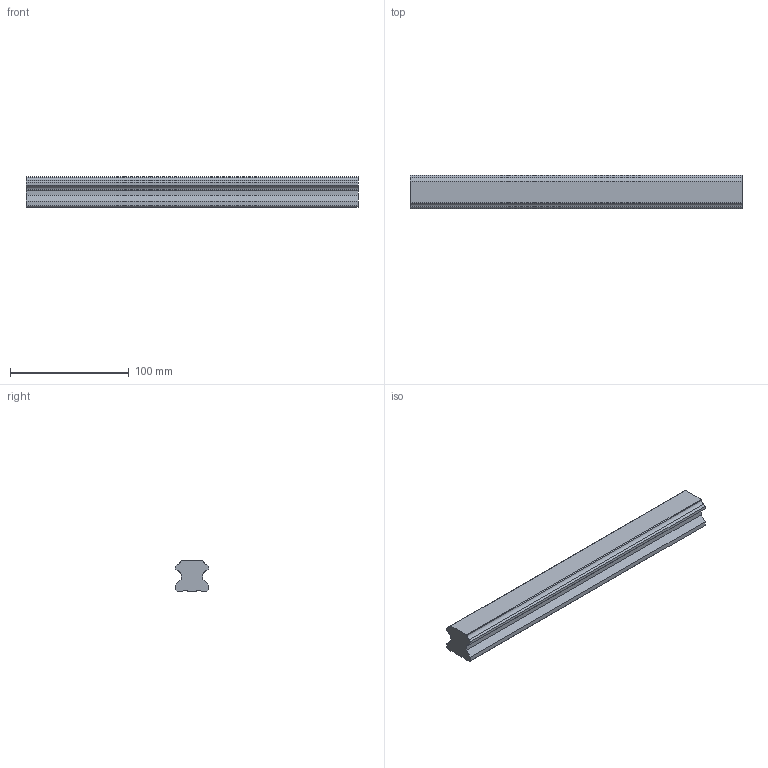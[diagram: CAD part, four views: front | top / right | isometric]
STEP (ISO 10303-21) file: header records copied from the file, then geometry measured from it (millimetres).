
FILE_DESCRIPTION(('starvars output'),'2;1');
FILE_NAME('cv20190626230523000044921.stp','23:05:23 2019/06/26',( 'Thomas Industrial Network Germany GmbH'),( 'Thomas Industrial Network Germany GmbH'),'unknown preprocess','ACIS' ,'unknown authorization');
FILE_SCHEMA(('CONFIG_CONTROL_DESIGN {UNKNOWN IMPLEMENTATION LEVEL}'));
Length unit declared in the file: millimetre
Products named in the file (1): PRODUCT_ID_1
Bounding box: 280 x 28 x 26 mm (x, y, z)
Volume: 167364.3 mm3; surface area: 33738.7 mm2
Topology: 1 solids, 1 shells, 98 faces, 248 edges, 148 vertices
Faces by surface type: plane 46, cylinder 28, cone 24
Entity records: 2493 total; most frequent: ORIENTED_EDGE 480, CARTESIAN_POINT 390, DIRECTION 356, EDGE_CURVE 240, VERTEX_POINT 148, VECTOR 128, LINE 128, AXIS2_PLACEMENT_3D 114
